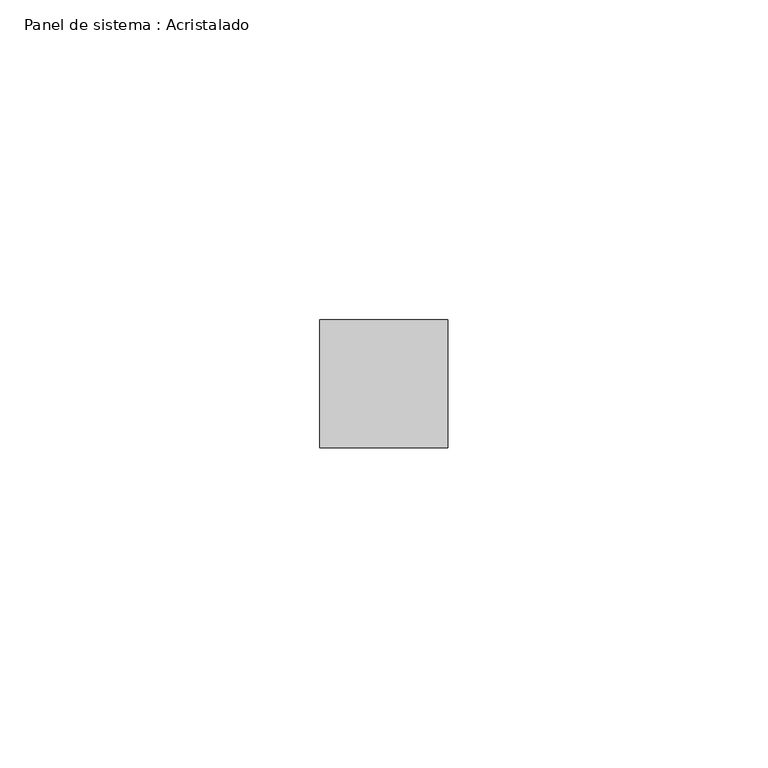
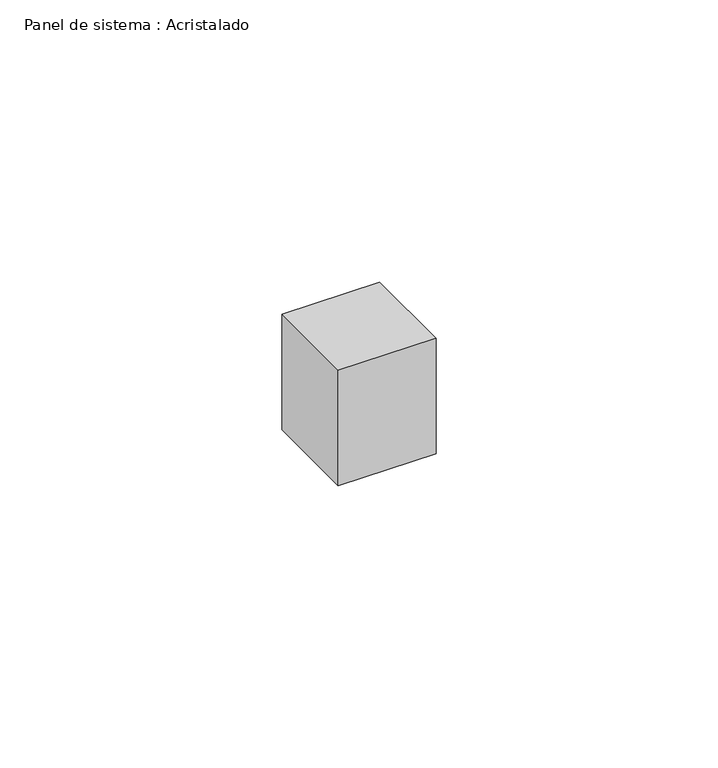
"""IFC4 building model written with IfcOpenShell, lengths in millimetres: plate geometry, Panel de sistema : Acristalado."""

from ifc_helpers import new_model, si_unit, origin, origin_with_axes, place, context, project, spatial, polyline, outline, extrude, source, transform, mapped, element, save


def panel_de_sistema_acristalado_d1a69939(model_context):
    return source(origin(), model_context, "Body", "SweptSolid", [
        extrude(outline(polyline([(10.0, -10.0), (-10.0, -10.0), (-10.0, 10.0), (10.0, 10.0), (10.0, -10.0)])), origin_with_axes(), (0.0, 0.0, 1.0), 25.0),
    ])


if __name__ == "__main__":
    model = new_model("IFC4")
    model_context = context("Model", 3, world=origin())
    ifc_project = project(units=[si_unit("LENGTHUNIT", "METRE", prefix="MILLI")], contexts=[model_context])
    site = spatial("IfcSite", under=ifc_project)
    building = spatial("IfcBuilding", under=site)
    placement = place(None, origin())
    panel_de_sistema_acristalado_shape = panel_de_sistema_acristalado_d1a69939(model_context)
    element("IfcPlate", 1, ObjectType="Panel de sistema : Acristalado", at=placement, inside=building, context=model_context, shape_type="MappedRepresentation", body=[
        mapped(panel_de_sistema_acristalado_shape, transform((0.0, 0.0, 0.0), x_axis=(1.0, 0.0, 0.0), y_axis=(0.0, 1.0, 0.0), z_axis=(0.0, 0.0, 1.0))),
    ])
    save(model, "model.ifc")
